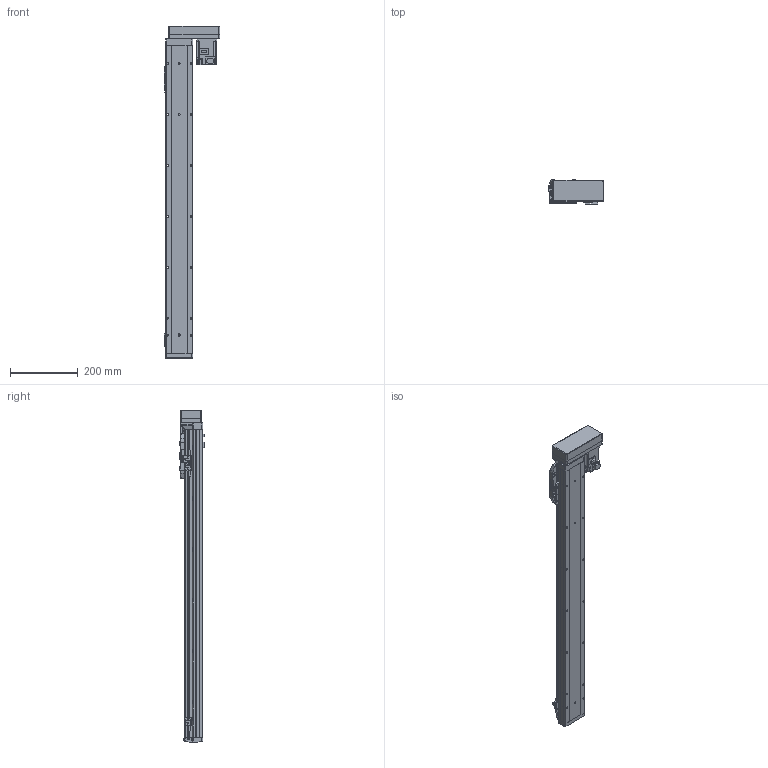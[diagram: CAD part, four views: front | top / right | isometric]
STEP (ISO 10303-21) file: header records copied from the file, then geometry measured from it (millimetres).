
FILE_DESCRIPTION (( 'STEP AP214' ), '1' );
FILE_NAME ('GSH8-750-BL-M20-1.step', '2025-01-07T06:06:31', ( '' ), ( '' ), 'SwSTEP 2.0', 'SolidWorks 2012', '' );
FILE_SCHEMA (( 'AUTOMOTIVE_DESIGN' ));
Length unit declared in the file: millimetre
Products named in the file (5): GSH8-GY-004; GSH8-BL-011-750-M20; HG-KR23_200W_Motor; GSH8-750-BL-M20-1; GSH8-BL-008
Assembly tree (4 placements, depth 2):
  GSH8-750-BL-M20-1
    GSH8-BL-011-750-M20
    GSH8-GY-004
    GSH8-BL-008
    HG-KR23_200W_Motor
Bounding box: 163 x 71.3 x 978.2 mm (x, y, z)
Volume: 2305023.6 mm3; surface area: 587879.3 mm2
Topology: 4 solids, 8 shells, 1148 faces, 3017 edges, 1942 vertices
Faces by surface type: plane 648, cylinder 404, torus 42, cone 26, bspline 24, sphere 4
Entity records: 44823 total; most frequent: CARTESIAN_POINT 10056, DIRECTION 6125, ORIENTED_EDGE 6018, EDGE_CURVE 3009, AXIS2_PLACEMENT_3D 2063, LINE 1999, VECTOR 1999, VERTEX_POINT 1938
